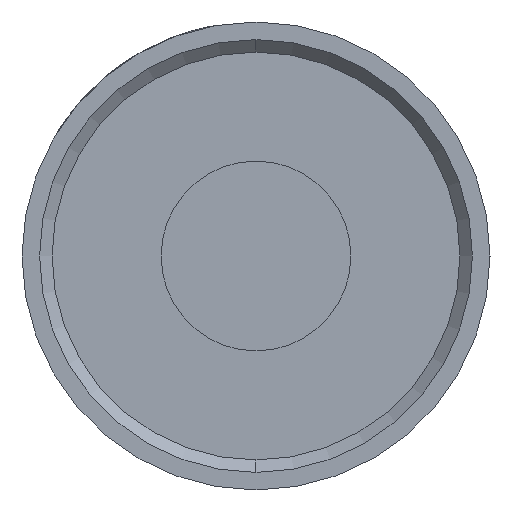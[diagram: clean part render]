
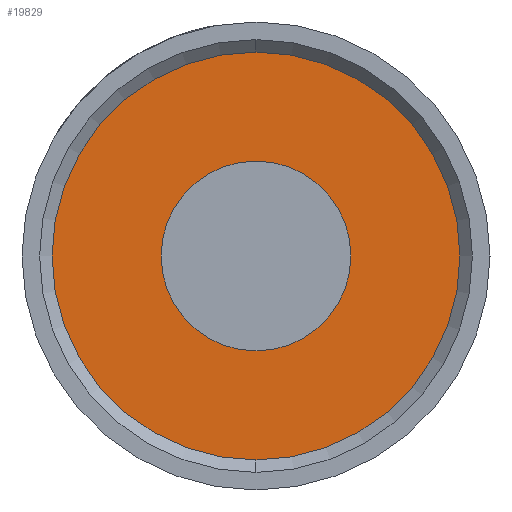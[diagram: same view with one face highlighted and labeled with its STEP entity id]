
A CAD part, left-side view. The second image highlights one B-rep face of the part: STEP entity #19829.
In plain terms, the highlighted planar face has unit normal (-1, 0, 0).
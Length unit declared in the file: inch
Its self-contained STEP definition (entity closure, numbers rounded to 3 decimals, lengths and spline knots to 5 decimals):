
#65 = CARTESIAN_POINT ( 'NONE',  ( 0., 0., -0.057 ) ) ;
#95 = CIRCLE ( 'NONE', #17404, 0.057 ) ;
#670 = CARTESIAN_POINT ( 'NONE',  ( 0., 0., 0. ) ) ;
#1039 = CARTESIAN_POINT ( 'NONE',  ( 0., 0., 0.1225 ) ) ;
#1207 = CARTESIAN_POINT ( 'NONE',  ( 0., 0., 0. ) ) ;
#1318 = DIRECTION ( 'NONE',  ( 0., 0., 1. ) ) ;
#2614 = EDGE_CURVE ( 'NONE', #18564, #10827, #95, .T. ) ;
#5215 = EDGE_CURVE ( 'NONE', #10827, #18564, #11696, .T. ) ;
#5646 = FACE_OUTER_BOUND ( 'NONE', #8131, .T. ) ;
#5866 = PLANE ( 'NONE',  #13204 ) ;
#6205 = AXIS2_PLACEMENT_3D ( 'NONE', #13958, #16909, #20501 ) ;
#8103 = VERTEX_POINT ( 'NONE', #14067 ) ;
#8131 = EDGE_LOOP ( 'NONE', ( #21718, #8637 ) ) ;
#8637 = ORIENTED_EDGE ( 'NONE', *, *, #20927, .T. ) ;
#9276 = DIRECTION ( 'NONE',  ( 0., 0., -1. ) ) ;
#10726 = FACE_BOUND ( 'NONE', #16777, .T. ) ;
#10827 = VERTEX_POINT ( 'NONE', #21611 ) ;
#10956 = DIRECTION ( 'NONE',  ( 0., 0., 1. ) ) ;
#11315 = CARTESIAN_POINT ( 'NONE',  ( 0., 0., 0. ) ) ;
#11696 = CIRCLE ( 'NONE', #17448, 0.057 ) ;
#12766 = DIRECTION ( 'NONE',  ( 1., 0., 0. ) ) ;
#13204 = AXIS2_PLACEMENT_3D ( 'NONE', #15834, #12766, #9276 ) ;
#13557 = VERTEX_POINT ( 'NONE', #1039 ) ;
#13958 = CARTESIAN_POINT ( 'NONE',  ( 0., 0., 0. ) ) ;
#14067 = CARTESIAN_POINT ( 'NONE',  ( 0., 0., -0.1225 ) ) ;
#14148 = CIRCLE ( 'NONE', #6205, 0.1225 ) ;
#14364 = ORIENTED_EDGE ( 'NONE', *, *, #5215, .F. ) ;
#14470 = DIRECTION ( 'NONE',  ( 0., 0., 1. ) ) ;
#14697 = CIRCLE ( 'NONE', #21534, 0.1225 ) ;
#15834 = CARTESIAN_POINT ( 'NONE',  ( 0., 0., 0. ) ) ;
#16663 = EDGE_CURVE ( 'NONE', #13557, #8103, #14148, .T. ) ;
#16777 = EDGE_LOOP ( 'NONE', ( #14364, #17190 ) ) ;
#16824 = DIRECTION ( 'NONE',  ( -1., 0., 0. ) ) ;
#16909 = DIRECTION ( 'NONE',  ( -1., 0., 0. ) ) ;
#17190 = ORIENTED_EDGE ( 'NONE', *, *, #2614, .F. ) ;
#17404 = AXIS2_PLACEMENT_3D ( 'NONE', #670, #19322, #10956 ) ;
#17448 = AXIS2_PLACEMENT_3D ( 'NONE', #11315, #17954, #14470 ) ;
#17954 = DIRECTION ( 'NONE',  ( -1., 0., 0. ) ) ;
#18564 = VERTEX_POINT ( 'NONE', #65 ) ;
#19322 = DIRECTION ( 'NONE',  ( -1., 0., 0. ) ) ;
#19829 = ADVANCED_FACE ( 'NONE', ( #10726, #5646 ), #5866, .F. ) ;
#20501 = DIRECTION ( 'NONE',  ( 0., 0., 1. ) ) ;
#20927 = EDGE_CURVE ( 'NONE', #8103, #13557, #14697, .T. ) ;
#21534 = AXIS2_PLACEMENT_3D ( 'NONE', #1207, #16824, #1318 ) ;
#21611 = CARTESIAN_POINT ( 'NONE',  ( 0., 0., 0.057 ) ) ;
#21718 = ORIENTED_EDGE ( 'NONE', *, *, #16663, .T. ) ;
